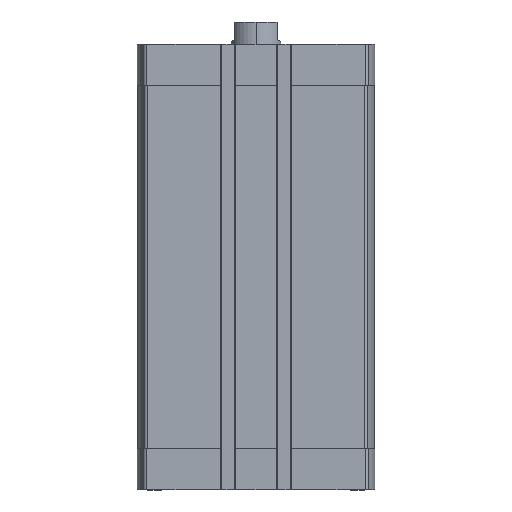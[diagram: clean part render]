
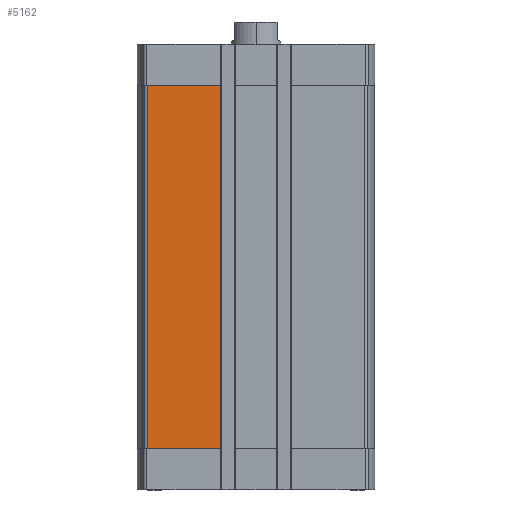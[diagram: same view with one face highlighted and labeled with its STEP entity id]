
A CAD part, left-side view. The second image highlights one B-rep face of the part: STEP entity #5162.
In plain terms, the highlighted planar face has unit normal (-1, 0, 0).
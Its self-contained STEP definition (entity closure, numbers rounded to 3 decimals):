
#144 = CARTESIAN_POINT ( 'NONE',  ( -47.5, 14.3, -162.5 ) ) ;
#189 = LINE ( 'NONE', #10758, #14473 ) ;
#1132 = LINE ( 'NONE', #7242, #13457 ) ;
#1465 = VERTEX_POINT ( 'NONE', #144 ) ;
#2599 = FACE_OUTER_BOUND ( 'NONE', #5715, .T. ) ;
#3879 = DIRECTION ( 'NONE',  ( 0., 0., -1. ) ) ;
#4865 = DIRECTION ( 'NONE',  ( 0., 0., 1. ) ) ;
#4943 = VERTEX_POINT ( 'NONE', #13381 ) ;
#5162 = ADVANCED_FACE ( 'NONE', ( #2599 ), #11344, .T. ) ;
#5305 = AXIS2_PLACEMENT_3D ( 'NONE', #11140, #11132, #11106 ) ;
#5605 = ORIENTED_EDGE ( 'NONE', *, *, #14153, .T. ) ;
#5715 = EDGE_LOOP ( 'NONE', ( #9257, #8770, #10068, #5605 ) ) ;
#7242 = CARTESIAN_POINT ( 'NONE',  ( -47.5, 14.3, -162.5 ) ) ;
#7871 = EDGE_CURVE ( 'NONE', #7925, #4943, #189, .T. ) ;
#7925 = VERTEX_POINT ( 'NONE', #9171 ) ;
#8770 = ORIENTED_EDGE ( 'NONE', *, *, #11571, .T. ) ;
#9171 = CARTESIAN_POINT ( 'NONE',  ( -47.5, 14.3, -16.5 ) ) ;
#9257 = ORIENTED_EDGE ( 'NONE', *, *, #10381, .T. ) ;
#9927 = DIRECTION ( 'NONE',  ( 0., 1., 0. ) ) ;
#10068 = ORIENTED_EDGE ( 'NONE', *, *, #7871, .T. ) ;
#10089 = VECTOR ( 'NONE', #3879, 1000. ) ;
#10170 = VECTOR ( 'NONE', #12292, 1000. ) ;
#10381 = EDGE_CURVE ( 'NONE', #11089, #1465, #13672, .T. ) ;
#10758 = CARTESIAN_POINT ( 'NONE',  ( -47.5, 0., -16.5 ) ) ;
#10901 = CARTESIAN_POINT ( 'NONE',  ( -47.5, 43.743, -162.5 ) ) ;
#11089 = VERTEX_POINT ( 'NONE', #10901 ) ;
#11106 = DIRECTION ( 'NONE',  ( 0., 0., 1. ) ) ;
#11132 = DIRECTION ( 'NONE',  ( -1., 0., 0. ) ) ;
#11140 = CARTESIAN_POINT ( 'NONE',  ( -47.5, 43.743, -162.5 ) ) ;
#11344 = PLANE ( 'NONE',  #5305 ) ;
#11571 = EDGE_CURVE ( 'NONE', #1465, #7925, #1132, .T. ) ;
#12185 = CARTESIAN_POINT ( 'NONE',  ( -47.5, 43.743, -162.5 ) ) ;
#12292 = DIRECTION ( 'NONE',  ( 0., -1., 0. ) ) ;
#12342 = CARTESIAN_POINT ( 'NONE',  ( -47.5, 43.743, -162.5 ) ) ;
#13381 = CARTESIAN_POINT ( 'NONE',  ( -47.5, 43.743, -16.5 ) ) ;
#13457 = VECTOR ( 'NONE', #4865, 1000. ) ;
#13672 = LINE ( 'NONE', #12342, #10170 ) ;
#14153 = EDGE_CURVE ( 'NONE', #4943, #11089, #14778, .T. ) ;
#14473 = VECTOR ( 'NONE', #9927, 1000. ) ;
#14778 = LINE ( 'NONE', #12185, #10089 ) ;
